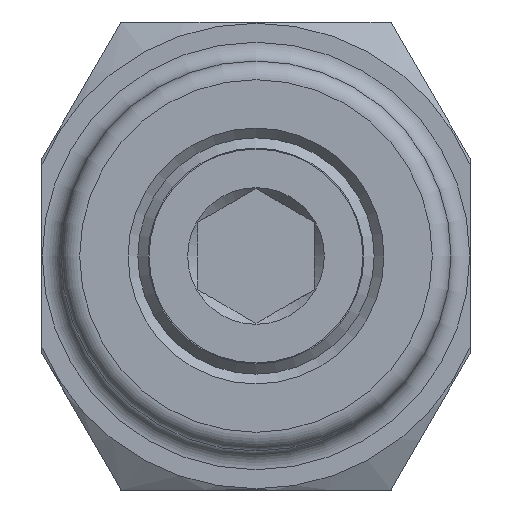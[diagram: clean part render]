
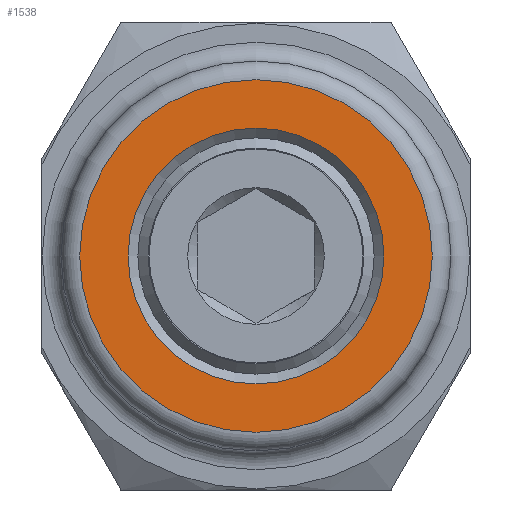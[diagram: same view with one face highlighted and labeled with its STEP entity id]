
A CAD part, front view. The second image highlights one B-rep face of the part: STEP entity #1538.
In plain terms, the highlighted planar face has unit normal (0, -1, 0).
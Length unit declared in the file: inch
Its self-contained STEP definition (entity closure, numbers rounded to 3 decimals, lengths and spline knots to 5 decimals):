
#82=PLANE('',#1706);
#126=FACE_BOUND('',#278,.T.);
#186=FACE_OUTER_BOUND('',#277,.T.);
#277=EDGE_LOOP('',(#1124,#1125));
#278=EDGE_LOOP('',(#1126,#1127));
#543=CIRCLE('',#1674,0.205);
#544=CIRCLE('',#1675,0.205);
#557=CIRCLE('',#1698,0.2825);
#561=CIRCLE('',#1702,0.2825);
#654=VERTEX_POINT('',#2435);
#655=VERTEX_POINT('',#2436);
#673=VERTEX_POINT('',#2578);
#674=VERTEX_POINT('',#2579);
#818=EDGE_CURVE('',#654,#655,#543,.T.);
#819=EDGE_CURVE('',#655,#654,#544,.T.);
#847=EDGE_CURVE('',#673,#674,#557,.T.);
#851=EDGE_CURVE('',#674,#673,#561,.T.);
#1124=ORIENTED_EDGE('',*,*,#847,.F.);
#1125=ORIENTED_EDGE('',*,*,#851,.F.);
#1126=ORIENTED_EDGE('',*,*,#818,.T.);
#1127=ORIENTED_EDGE('',*,*,#819,.T.);
#1538=ADVANCED_FACE('',(#186,#126),#82,.T.);
#1674=AXIS2_PLACEMENT_3D('',#2437,#1900,#1901);
#1675=AXIS2_PLACEMENT_3D('',#2438,#1902,#1903);
#1698=AXIS2_PLACEMENT_3D('',#2580,#1958,#1959);
#1702=AXIS2_PLACEMENT_3D('',#2586,#1966,#1967);
#1706=AXIS2_PLACEMENT_3D('',#2593,#1975,#1976);
#1900=DIRECTION('center_axis',(0.,1.,0.));
#1901=DIRECTION('ref_axis',(0.,0.,-1.));
#1902=DIRECTION('center_axis',(0.,1.,0.));
#1903=DIRECTION('ref_axis',(0.,0.,-1.));
#1958=DIRECTION('center_axis',(0.,1.,0.));
#1959=DIRECTION('ref_axis',(0.,0.,
1.));
#1966=DIRECTION('center_axis',(0.,1.,0.));
#1967=DIRECTION('ref_axis',(0.,0.,
1.));
#1975=DIRECTION('center_axis',(0.,-1.,0.));
#1976=DIRECTION('ref_axis',(0.,0.,-1.));
#2435=CARTESIAN_POINT('',(0.,0.,-0.205));
#2436=CARTESIAN_POINT('',(0.,0.,0.205));
#2437=CARTESIAN_POINT('Origin',(0.,0.,0.));
#2438=CARTESIAN_POINT('Origin',(0.,0.,0.));
#2578=CARTESIAN_POINT('',(0.,0.,-0.2825));
#2579=CARTESIAN_POINT('',(0.,0.,0.2825));
#2580=CARTESIAN_POINT('Origin',(0.,0.,0.));
#2586=CARTESIAN_POINT('Origin',(0.,0.,0.));
#2593=CARTESIAN_POINT('Origin',(0.,0.,0.));
